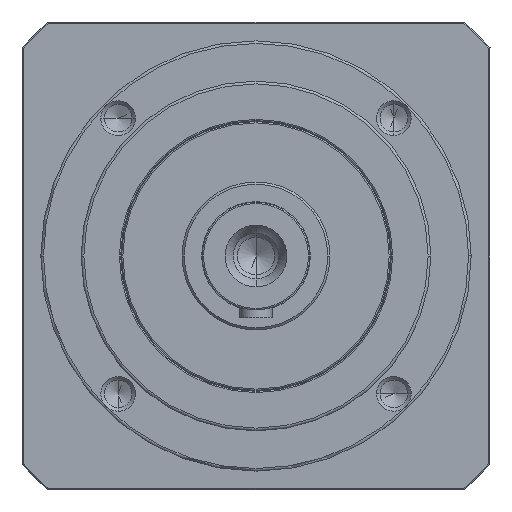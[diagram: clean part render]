
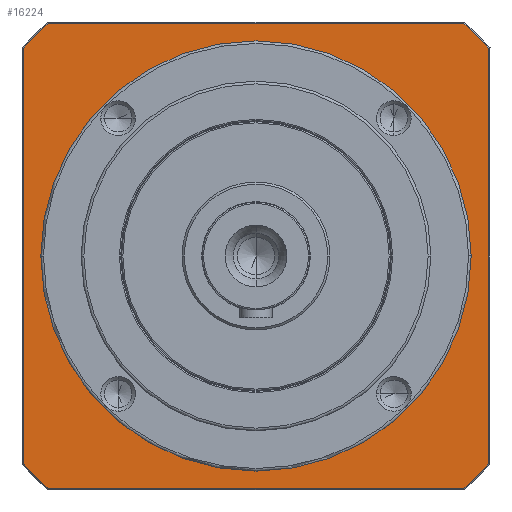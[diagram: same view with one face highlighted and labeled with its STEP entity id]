
A CAD part, left-side view. The second image highlights one B-rep face of the part: STEP entity #16224.
In plain terms, the highlighted planar face has unit normal (-1, 0, 0) as drawn and (0, 0, -1) by its records, which use the part's own axes.
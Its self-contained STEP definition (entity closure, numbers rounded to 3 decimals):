
#15110=CARTESIAN_POINT('',(0.,0.,
2.5));
#15111=DIRECTION('',(0.,0.,-1.));
#15112=DIRECTION('',(0.,-1.,0.));
#15113=AXIS2_PLACEMENT_3D('',#15110,#15111,#15112);
#15115=CARTESIAN_POINT('',(0.,0.,
2.5));
#15116=DIRECTION('',(0.,0.,-1.));
#15117=DIRECTION('',(0.,1.,0.));
#15118=AXIS2_PLACEMENT_3D('',#15115,#15116,#15117);
#15120=CARTESIAN_POINT('',(0.,0.,2.5));
#15121=DIRECTION('',(0.,0.,1.));
#15122=DIRECTION('',(-0.746,-0.666,0.));
#15123=AXIS2_PLACEMENT_3D('',#15120,#15121,#15122);
#15125=DIRECTION('',(1.,0.,0.));
#15126=VECTOR('',#15125,154.58);
#15127=CARTESIAN_POINT('',(-77.29,-86.5,
2.5));
#15128=LINE('',#15127,#15126);
#15129=CARTESIAN_POINT('',(0.,0.,2.5));
#15130=DIRECTION('',(0.,0.,1.));
#15131=DIRECTION('',(0.666,-0.746,0.));
#15132=AXIS2_PLACEMENT_3D('',#15129,#15130,#15131);
#15134=DIRECTION('',(0.,1.,0.));
#15135=VECTOR('',#15134,154.58);
#15136=CARTESIAN_POINT('',(86.5,-77.29,
2.5));
#15137=LINE('',#15136,#15135);
#15138=CARTESIAN_POINT('',(0.,0.,2.5));
#15139=DIRECTION('',(0.,0.,1.));
#15140=DIRECTION('',(0.746,0.666,0.));
#15141=AXIS2_PLACEMENT_3D('',#15138,#15139,#15140);
#15143=DIRECTION('',(-1.,0.,0.));
#15144=VECTOR('',#15143,154.58);
#15145=CARTESIAN_POINT('',(77.29,86.5,2.5));
#15146=LINE('',#15145,#15144);
#15147=CARTESIAN_POINT('',(0.,0.,2.5));
#15148=DIRECTION('',(0.,0.,1.));
#15149=DIRECTION('',(-0.666,0.746,0.));
#15150=AXIS2_PLACEMENT_3D('',#15147,#15148,#15149);
#15152=DIRECTION('',(0.,-1.,0.));
#15153=VECTOR('',#15152,154.58);
#15154=CARTESIAN_POINT('',(-86.5,77.29,
2.5));
#15155=LINE('',#15154,#15153);
#15873=CARTESIAN_POINT('',(0.,-69.5,2.5));
#15874=CARTESIAN_POINT('',(0.,69.5,
2.5));
#15875=VERTEX_POINT('',#15873);
#15876=VERTEX_POINT('',#15874);
#15977=CARTESIAN_POINT('',(-86.5,-77.29,2.5));
#15978=CARTESIAN_POINT('',(-77.29,-86.5,2.5));
#15979=VERTEX_POINT('',#15977);
#15980=VERTEX_POINT('',#15978);
#15985=CARTESIAN_POINT('',(77.29,-86.5,
2.5));
#15986=VERTEX_POINT('',#15985);
#15989=CARTESIAN_POINT('',(86.5,-77.29,2.5));
#15990=VERTEX_POINT('',#15989);
#15993=CARTESIAN_POINT('',(86.5,77.29,2.5));
#15994=VERTEX_POINT('',#15993);
#15997=CARTESIAN_POINT('',(77.29,86.5,2.5));
#15998=VERTEX_POINT('',#15997);
#16001=CARTESIAN_POINT('',(-77.29,86.5,
2.5));
#16002=VERTEX_POINT('',#16001);
#16007=CARTESIAN_POINT('',(-86.5,77.29,2.5));
#16008=VERTEX_POINT('',#16007);
#16196=CARTESIAN_POINT('',(0.,0.,2.5));
#16197=DIRECTION('',(0.,0.,1.));
#16198=DIRECTION('',(0.,1.,0.));
#16199=AXIS2_PLACEMENT_3D('',#16196,#16197,#16198);
#16200=PLANE('',#16199);
#16202=ORIENTED_EDGE('',*,*,#16201,.T.);
#16204=ORIENTED_EDGE('',*,*,#16203,.T.);
#16206=ORIENTED_EDGE('',*,*,#16205,.T.);
#16208=ORIENTED_EDGE('',*,*,#16207,.T.);
#16210=ORIENTED_EDGE('',*,*,#16209,.T.);
#16212=ORIENTED_EDGE('',*,*,#16211,.T.);
#16214=ORIENTED_EDGE('',*,*,#16213,.T.);
#16216=ORIENTED_EDGE('',*,*,#16215,.T.);
#16217=EDGE_LOOP('',(#16202,#16204,#16206,#16208,#16210,#16212,#16214,#16216));
#16218=FACE_OUTER_BOUND('',#16217,.F.);
#16220=ORIENTED_EDGE('',*,*,#16219,.T.);
#16221=ORIENTED_EDGE('',*,*,#16186,.T.);
#16222=EDGE_LOOP('',(#16220,#16221));
#16223=FACE_BOUND('',#16222,.F.);
#16224=ADVANCED_FACE('',(#16218,#16223),#16200,.F.);
#15114=CIRCLE('',#15113,69.5);
#15119=CIRCLE('',#15118,69.5);
#15124=CIRCLE('',#15123,116.);
#15133=CIRCLE('',#15132,116.);
#15142=CIRCLE('',#15141,116.);
#15151=CIRCLE('',#15150,116.);
#16186=EDGE_CURVE('',#15876,#15875,#15119,.T.);
#16201=EDGE_CURVE('',#15979,#15980,#15124,.T.);
#16203=EDGE_CURVE('',#15980,#15986,#15128,.T.);
#16205=EDGE_CURVE('',#15986,#15990,#15133,.T.);
#16207=EDGE_CURVE('',#15990,#15994,#15137,.T.);
#16209=EDGE_CURVE('',#15994,#15998,#15142,.T.);
#16211=EDGE_CURVE('',#15998,#16002,#15146,.T.);
#16213=EDGE_CURVE('',#16002,#16008,#15151,.T.);
#16215=EDGE_CURVE('',#16008,#15979,#15155,.T.);
#16219=EDGE_CURVE('',#15875,#15876,#15114,.T.);
